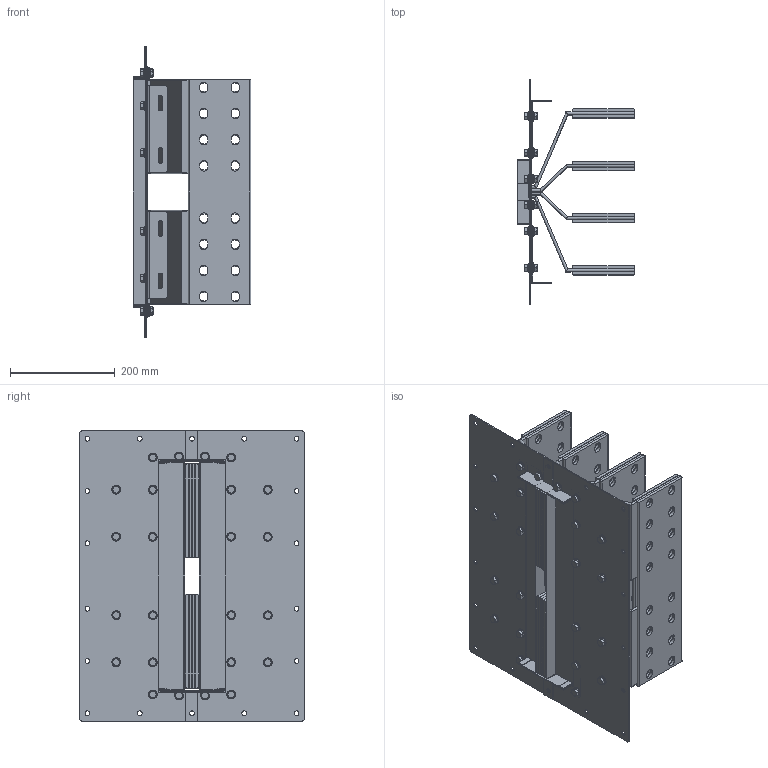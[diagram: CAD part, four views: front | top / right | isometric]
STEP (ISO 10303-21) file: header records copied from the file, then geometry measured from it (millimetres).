
FILE_DESCRIPTION(('CATIA V5 STEP','CAx-IF Rec.Pracs.--- Model Styling and Organization---1.5--- 2016-08-15','CAx-IF Rec.Pracs.---Supplemental Geometry---1.0---2011-11-01','CAx-IF Rec.Pracs.--- Composite Materials ---1.1---2010-07-15'),'2;1');
FILE_NAME('K:\COSCN 2011\32372311_RiduzioneSezioniBarre\03_Studio\__Modelli semplificati\XCP_UB semplificati per studi\XCP-HP_UB_4C_Pe_STD_Assieme\Cu\XCP-HP_UB_4C_Pe_D_Assieme - 4000A Cu\XCP-HP_UB_4C_Pe_D_Assieme - 4000A Cu.stp','2025-05-12T12:03:58+00:00',('Utente Bticino'),('Bticino S.p.A.'),'CATIA Version 5-6 Release 2020 SP5','CATIA V5 STEP AP214 v2','none');
FILE_SCHEMA(('AUTOMOTIVE_DESIGN { 1 0 10303 214 1 1 1 1 }'));
Length unit declared in the file: millimetre
Products named in the file (8): XCP-HP_UB_4C_Pe_D_Assieme - 4000A Cu; XCP-HP_UB_4C_Pe_D_PaccoBarre_4000A Cu; XCP-HP_UB_4C_Pe_D_Lamiere_4000A Cu; XCP-HP_UB_4C_Pe_D_PaccoBarre_4000A Cu_1; XCP-HP_UB_4C_Pe_D - 4000A Cu_Bandelle parallelo; Ass Vite+dado M8; Steel hex flanged SCREW M12x16; Steel hex flanged NUT M8
Assembly tree (30 placements, depth 3):
  XCP-HP_UB_4C_Pe_D_Assieme - 4000A Cu
    XCP-HP_UB_4C_Pe_D_PaccoBarre_4000A Cu
    XCP-HP_UB_4C_Pe_D_Lamiere_4000A Cu
    XCP-HP_UB_4C_Pe_D_PaccoBarre_4000A Cu_1
    XCP-HP_UB_4C_Pe_D - 4000A Cu_Bandelle parallelo
    Ass Vite+dado M8  x24
      Steel hex flanged SCREW M12x16
      Steel hex flanged NUT M8
Bounding box: 225 x 430 x 555 mm (x, y, z)
Volume: 5078230.1 mm3; surface area: 2485512.3 mm2
Topology: 74 solids, 74 shells, 2404 faces, 6216 edges, 4008 vertices
Faces by surface type: plane 1064, cylinder 908, cone 192, bspline 192, torus 48
Entity records: 41532 total; most frequent: CARTESIAN_POINT 8274, ORIENTED_EDGE 7556, DIRECTION 5120, EDGE_CURVE 3778, VERTEX_POINT 2490, VECTOR 2396, LINE 2396, AXIS2_PLACEMENT_3D 2012
